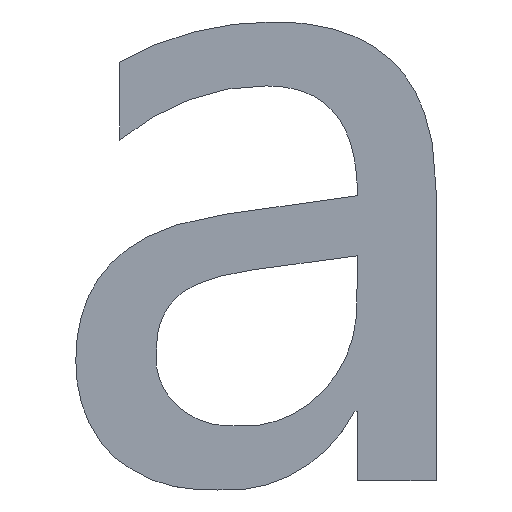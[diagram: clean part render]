
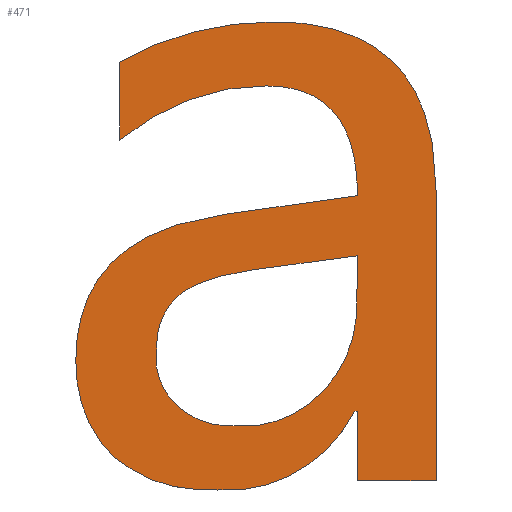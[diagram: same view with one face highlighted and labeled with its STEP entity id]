
A CAD part, front view. The second image highlights one B-rep face of the part: STEP entity #471.
In plain terms, the highlighted planar face has unit normal (0, -1, 0).
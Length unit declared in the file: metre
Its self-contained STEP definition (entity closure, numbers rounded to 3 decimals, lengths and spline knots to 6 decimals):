
#17=CIRCLE('',#633,0.000037);
#19=CIRCLE('',#636,0.000035);
#21=CIRCLE('',#639,0.000024);
#23=CIRCLE('',#642,0.000021);
#25=CIRCLE('',#645,0.000021);
#27=CIRCLE('',#652,0.000045);
#29=CIRCLE('',#655,0.00004);
#31=CIRCLE('',#658,0.000041);
#33=CIRCLE('',#662,0.000073);
#35=CIRCLE('',#666,0.000093);
#53=B_SPLINE_CURVE_WITH_KNOTS('',3,(#854,#855,#856,#857),.UNSPECIFIED.,
 .F.,.F.,(4,4),(0.,1.),.UNSPECIFIED.);
#56=B_SPLINE_CURVE_WITH_KNOTS('',3,(#877,#878,#879,#880),.UNSPECIFIED.,
 .F.,.F.,(4,4),(1.,2.),.UNSPECIFIED.);
#61=B_SPLINE_CURVE_WITH_KNOTS('',3,(#947,#948,#949,#950),.UNSPECIFIED.,
 .F.,.F.,(4,4),(9.,10.),.UNSPECIFIED.);
#63=B_SPLINE_CURVE_WITH_KNOTS('',3,(#972,#973,#974,#975),.UNSPECIFIED.,
 .F.,.F.,(4,4),(11.,12.),.UNSPECIFIED.);
#175=ORIENTED_EDGE('',*,*,#218,.F.);
#176=ORIENTED_EDGE('',*,*,#220,.F.);
#177=ORIENTED_EDGE('',*,*,#199,.F.);
#178=ORIENTED_EDGE('',*,*,#203,.F.);
#179=ORIENTED_EDGE('',*,*,#206,.F.);
#180=ORIENTED_EDGE('',*,*,#209,.F.);
#181=ORIENTED_EDGE('',*,*,#212,.F.);
#182=ORIENTED_EDGE('',*,*,#215,.F.);
#183=ORIENTED_EDGE('',*,*,#262,.T.);
#184=ORIENTED_EDGE('',*,*,#259,.T.);
#185=ORIENTED_EDGE('',*,*,#256,.T.);
#186=ORIENTED_EDGE('',*,*,#253,.T.);
#187=ORIENTED_EDGE('',*,*,#250,.T.);
#188=ORIENTED_EDGE('',*,*,#247,.T.);
#189=ORIENTED_EDGE('',*,*,#244,.T.);
#190=ORIENTED_EDGE('',*,*,#241,.T.);
#191=ORIENTED_EDGE('',*,*,#238,.T.);
#192=ORIENTED_EDGE('',*,*,#235,.T.);
#193=ORIENTED_EDGE('',*,*,#232,.T.);
#194=ORIENTED_EDGE('',*,*,#229,.T.);
#195=ORIENTED_EDGE('',*,*,#226,.T.);
#196=ORIENTED_EDGE('',*,*,#223,.T.);
#199=EDGE_CURVE('',#265,#266,#309,.T.);
#203=EDGE_CURVE('',#268,#265,#312,.T.);
#206=EDGE_CURVE('',#270,#268,#17,.T.);
#209=EDGE_CURVE('',#272,#270,#19,.T.);
#212=EDGE_CURVE('',#274,#272,#21,.T.);
#215=EDGE_CURVE('',#276,#274,#23,.T.);
#218=EDGE_CURVE('',#278,#276,#25,.T.);
#220=EDGE_CURVE('',#266,#278,#53,.T.);
#223=EDGE_CURVE('',#282,#281,#56,.T.);
#226=EDGE_CURVE('',#284,#282,#315,.T.);
#229=EDGE_CURVE('',#286,#284,#318,.T.);
#232=EDGE_CURVE('',#288,#286,#321,.T.);
#235=EDGE_CURVE('',#290,#288,#324,.T.);
#238=EDGE_CURVE('',#292,#290,#27,.T.);
#241=EDGE_CURVE('',#294,#292,#29,.T.);
#244=EDGE_CURVE('',#296,#294,#31,.T.);
#247=EDGE_CURVE('',#298,#296,#61,.T.);
#250=EDGE_CURVE('',#300,#298,#328,.T.);
#253=EDGE_CURVE('',#302,#300,#63,.T.);
#256=EDGE_CURVE('',#304,#302,#33,.T.);
#259=EDGE_CURVE('',#306,#304,#332,.T.);
#262=EDGE_CURVE('',#281,#306,#35,.T.);
#265=VERTEX_POINT('',#784);
#266=VERTEX_POINT('',#786);
#268=VERTEX_POINT('',#795);
#270=VERTEX_POINT('',#804);
#272=VERTEX_POINT('',#813);
#274=VERTEX_POINT('',#822);
#276=VERTEX_POINT('',#831);
#278=VERTEX_POINT('',#840);
#281=VERTEX_POINT('',#876);
#282=VERTEX_POINT('',#881);
#284=VERTEX_POINT('',#887);
#286=VERTEX_POINT('',#893);
#288=VERTEX_POINT('',#899);
#290=VERTEX_POINT('',#905);
#292=VERTEX_POINT('',#911);
#294=VERTEX_POINT('',#920);
#296=VERTEX_POINT('',#929);
#298=VERTEX_POINT('',#951);
#300=VERTEX_POINT('',#957);
#302=VERTEX_POINT('',#976);
#304=VERTEX_POINT('',#985);
#306=VERTEX_POINT('',#991);
#309=LINE('',#785,#336);
#312=LINE('',#796,#339);
#315=LINE('',#886,#342);
#318=LINE('',#892,#345);
#321=LINE('',#898,#348);
#324=LINE('',#904,#351);
#328=LINE('',#956,#355);
#332=LINE('',#990,#359);
#336=VECTOR('',#675,1.);
#339=VECTOR('',#680,1.);
#342=VECTOR('',#715,1.);
#345=VECTOR('',#720,1.);
#348=VECTOR('',#725,1.);
#351=VECTOR('',#730,1.);
#355=VECTOR('',#754,1.);
#359=VECTOR('',#766,1.);
#385=EDGE_LOOP('',(#175,#176,#177,#178,#179,#180,#181,#182));
#386=EDGE_LOOP('',(#183,#184,#185,#186,#187,#188,#189,#190,#191,#192,#193,
#194,#195,#196));
#411=FACE_BOUND('',#385,.T.);
#412=FACE_BOUND('',#386,.T.);
#422=PLANE('',#668);
#471=ADVANCED_FACE('',(#411,#412),#422,.T.);
#633=AXIS2_PLACEMENT_3D('',#805,#685,#686);
#636=AXIS2_PLACEMENT_3D('',#814,#691,#692);
#639=AXIS2_PLACEMENT_3D('',#823,#697,#698);
#642=AXIS2_PLACEMENT_3D('',#832,#703,#704);
#645=AXIS2_PLACEMENT_3D('',#841,#709,#710);
#652=AXIS2_PLACEMENT_3D('',#910,#736,#737);
#655=AXIS2_PLACEMENT_3D('',#919,#742,#743);
#658=AXIS2_PLACEMENT_3D('',#928,#748,#749);
#662=AXIS2_PLACEMENT_3D('',#984,#760,#761);
#666=AXIS2_PLACEMENT_3D('',#995,#772,#773);
#668=AXIS2_PLACEMENT_3D('',#997,#776,#777);
#675=DIRECTION('',(-0.991,0.,-0.133));
#680=DIRECTION('',(0.,0.,1.));
#685=DIRECTION('',(0.,-1.,0.));
#686=DIRECTION('',(0.,0.,-1.));
#691=DIRECTION('',(0.,-1.,0.));
#692=DIRECTION('',(0.,0.,-1.));
#697=DIRECTION('',(0.,-1.,0.));
#698=DIRECTION('',(0.,0.,-1.));
#703=DIRECTION('',(0.,-1.,0.));
#704=DIRECTION('',(0.,0.,-1.));
#709=DIRECTION('',(0.,-1.,0.));
#710=DIRECTION('',(0.,0.,-1.));
#715=DIRECTION('',(0.,0.,1.));
#720=DIRECTION('',(1.,0.,0.));
#725=DIRECTION('',(0.,0.,-1.));
#730=DIRECTION('',(1.,0.,0.));
#736=DIRECTION('',(0.,-1.,0.));
#737=DIRECTION('',(0.,0.,-1.));
#742=DIRECTION('',(0.,-1.,0.));
#743=DIRECTION('',(0.,0.,-1.));
#748=DIRECTION('',(0.,-1.,0.));
#749=DIRECTION('',(0.,0.,-1.));
#754=DIRECTION('',(-0.99,0.,-0.139));
#760=DIRECTION('',(0.,1.,0.));
#761=DIRECTION('',(0.,0.,1.));
#766=DIRECTION('',(0.,0.,-1.));
#772=DIRECTION('',(0.,-1.,0.));
#773=DIRECTION('',(0.,0.,-1.));
#776=DIRECTION('',(0.,-1.,0.));
#777=DIRECTION('',(0.,0.,1.));
#784=CARTESIAN_POINT('',(-0.145044,-0.023259,0.01221));
#785=CARTESIAN_POINT('',(-0.145044,-0.023259,0.01221));
#786=CARTESIAN_POINT('',(-0.145077,-0.023259,0.012205));
#795=CARTESIAN_POINT('',(-0.145044,-0.023259,0.012196));
#796=CARTESIAN_POINT('',(-0.145044,-0.023259,0.012196));
#804=CARTESIAN_POINT('',(-0.145054,-0.023259,0.012168));
#805=CARTESIAN_POINT('',(-0.145082,-0.023259,0.012193));
#813=CARTESIAN_POINT('',(-0.145081,-0.023259,0.012157));
#814=CARTESIAN_POINT('',(-0.14508,-0.023259,0.012192));
#822=CARTESIAN_POINT('',(-0.1451,-0.023259,0.012163));
#823=CARTESIAN_POINT('',(-0.145084,-0.023259,0.012181));
#831=CARTESIAN_POINT('',(-0.145106,-0.023259,0.012179));
#832=CARTESIAN_POINT('',(-0.145086,-0.023259,0.012178));
#840=CARTESIAN_POINT('',(-0.1451,-0.023259,0.012197));
#841=CARTESIAN_POINT('',(-0.145086,-0.023259,0.012182));
#854=CARTESIAN_POINT('',(-0.145077,-0.023259,0.012205));
#855=CARTESIAN_POINT('',(-0.145088,-0.023259,0.012204));
#856=CARTESIAN_POINT('',(-0.145096,-0.023259,0.012201));
#857=CARTESIAN_POINT('',(-0.1451,-0.023259,0.012197));
#876=CARTESIAN_POINT('',(-0.14507,-0.023259,0.012282));
#877=CARTESIAN_POINT('',(-0.14502,-0.023259,0.012229));
#878=CARTESIAN_POINT('',(-0.14502,-0.023259,0.012265));
#879=CARTESIAN_POINT('',(-0.145036,-0.023259,0.012282));
#880=CARTESIAN_POINT('',(-0.14507,-0.023259,0.012282));
#881=CARTESIAN_POINT('',(-0.14502,-0.023259,0.012229));
#886=CARTESIAN_POINT('',(-0.14502,-0.023259,0.012229));
#887=CARTESIAN_POINT('',(-0.14502,-0.023259,0.01214));
#892=CARTESIAN_POINT('',(-0.14502,-0.023259,0.01214));
#893=CARTESIAN_POINT('',(-0.145044,-0.023259,0.01214));
#898=CARTESIAN_POINT('',(-0.145044,-0.023259,0.01214));
#899=CARTESIAN_POINT('',(-0.145044,-0.023259,0.012161));
#904=CARTESIAN_POINT('',(-0.145044,-0.023259,0.012161));
#905=CARTESIAN_POINT('',(-0.145045,-0.023259,0.012161));
#910=CARTESIAN_POINT('',(-0.145085,-0.023259,0.012182));
#911=CARTESIAN_POINT('',(-0.145087,-0.023259,0.012137));
#919=CARTESIAN_POINT('',(-0.145092,-0.023259,0.012178));
#920=CARTESIAN_POINT('',(-0.14512,-0.023259,0.012147));
#928=CARTESIAN_POINT('',(-0.14509,-0.023259,0.012176));
#929=CARTESIAN_POINT('',(-0.145131,-0.023259,0.012177));
#947=CARTESIAN_POINT('',(-0.145085,-0.023259,0.012223));
#948=CARTESIAN_POINT('',(-0.145116,-0.023259,0.012218));
#949=CARTESIAN_POINT('',(-0.145131,-0.023259,0.012203));
#950=CARTESIAN_POINT('',(-0.145131,-0.023259,0.012177));
#951=CARTESIAN_POINT('',(-0.145085,-0.023259,0.012223));
#956=CARTESIAN_POINT('',(-0.145085,-0.023259,0.012223));
#957=CARTESIAN_POINT('',(-0.145044,-0.023259,0.012228));
#972=CARTESIAN_POINT('',(-0.145072,-0.023259,0.012262));
#973=CARTESIAN_POINT('',(-0.145053,-0.023259,0.012262));
#974=CARTESIAN_POINT('',(-0.145044,-0.023259,0.012251));
#975=CARTESIAN_POINT('',(-0.145044,-0.023259,0.012228));
#976=CARTESIAN_POINT('',(-0.145072,-0.023259,0.012262));
#984=CARTESIAN_POINT('',(-0.145071,-0.023259,0.01219));
#985=CARTESIAN_POINT('',(-0.145118,-0.023259,0.012246));
#990=CARTESIAN_POINT('',(-0.145118,-0.023259,0.012246));
#991=CARTESIAN_POINT('',(-0.145118,-0.023259,0.01227));
#995=CARTESIAN_POINT('',(-0.145071,-0.023259,0.012189));
#997=CARTESIAN_POINT('',(-0.145096,-0.023259,0.012279));
